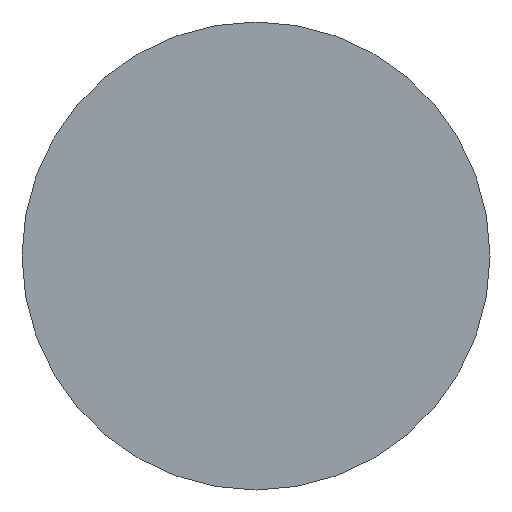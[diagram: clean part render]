
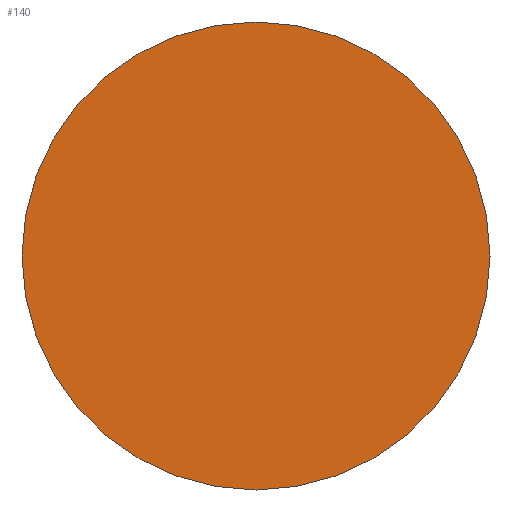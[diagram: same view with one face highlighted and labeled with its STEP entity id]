
A CAD part, left-side view. The second image highlights one B-rep face of the part: STEP entity #140.
In plain terms, the highlighted planar face has unit normal (-1, 0, 0).
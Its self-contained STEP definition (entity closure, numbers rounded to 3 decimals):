
#31 = CYLINDRICAL_SURFACE('',#32,1.5);
#32 = AXIS2_PLACEMENT_3D('',#33,#34,#35);
#33 = CARTESIAN_POINT('',(-6.6,-4.5,8.3));
#34 = DIRECTION('',(1.,0.,0.));
#35 = DIRECTION('',(-0.,0.,1.));
#56 = VERTEX_POINT('',#57);
#57 = CARTESIAN_POINT('',(-6.6,-4.5,9.8));
#78 = EDGE_CURVE('',#56,#56,#79,.T.);
#79 = SURFACE_CURVE('',#80,(#85,#92),.PCURVE_S1.);
#80 = CIRCLE('',#81,1.5);
#81 = AXIS2_PLACEMENT_3D('',#82,#83,#84);
#82 = CARTESIAN_POINT('',(-6.6,-4.5,8.3));
#83 = DIRECTION('',(1.,0.,0.));
#84 = DIRECTION('',(-0.,0.,1.));
#85 = PCURVE('',#31,#86);
#86 = DEFINITIONAL_REPRESENTATION('',(#87),#91);
#87 = LINE('',#88,#89);
#88 = CARTESIAN_POINT('',(0.,0.));
#89 = VECTOR('',#90,1.);
#90 = DIRECTION('',(1.,0.));
#91 = ( GEOMETRIC_REPRESENTATION_CONTEXT(2) 
PARAMETRIC_REPRESENTATION_CONTEXT() REPRESENTATION_CONTEXT('2D SPACE',''
  ) );
#92 = PCURVE('',#93,#98);
#93 = PLANE('',#94);
#94 = AXIS2_PLACEMENT_3D('',#95,#96,#97);
#95 = CARTESIAN_POINT('',(-6.6,-4.5,8.3));
#96 = DIRECTION('',(1.,0.,0.));
#97 = DIRECTION('',(-0.,0.,1.));
#98 = DEFINITIONAL_REPRESENTATION('',(#99),#103);
#99 = CIRCLE('',#100,1.5);
#100 = AXIS2_PLACEMENT_2D('',#101,#102);
#101 = CARTESIAN_POINT('',(0.,0.));
#102 = DIRECTION('',(1.,0.));
#103 = ( GEOMETRIC_REPRESENTATION_CONTEXT(2) 
PARAMETRIC_REPRESENTATION_CONTEXT() REPRESENTATION_CONTEXT('2D SPACE',''
  ) );
#140 = ADVANCED_FACE('',(#141),#93,.F.);
#141 = FACE_BOUND('',#142,.T.);
#142 = EDGE_LOOP('',(#143));
#143 = ORIENTED_EDGE('',*,*,#78,.F.);
